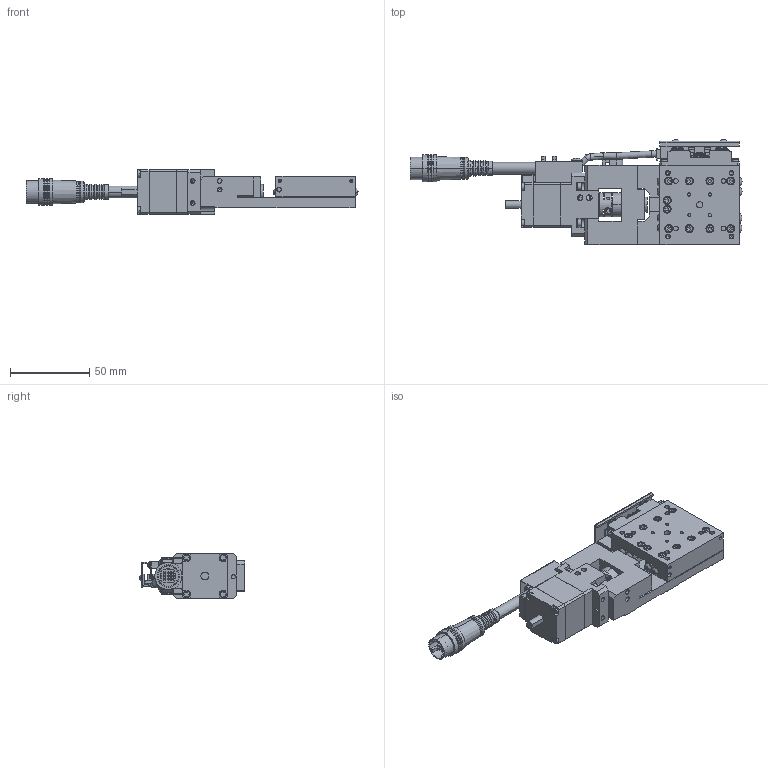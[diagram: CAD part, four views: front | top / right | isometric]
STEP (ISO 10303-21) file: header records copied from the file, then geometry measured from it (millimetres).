
FILE_DESCRIPTION (( 'STEP AP203' ), '1' );
FILE_NAME ('XA05A-R202-R.STEP', '2019-02-20T07:48:12', ( '' ), ( '' ), 'SwSTEP 2.0', 'SolidWorks 2018', '' );
FILE_SCHEMA (( 'CONFIG_CONTROL_DESIGN' ));
Length unit declared in the file: millimetre
Products named in the file (6): base-Part-3; base-Part-2; table; base; XA05A-R202-R; base-Part-1
Assembly tree (5 placements, depth 3):
  XA05A-R202-R
    base
      base-Part-1
      base-Part-2
      base-Part-3
    table
Bounding box: 209.18 x 66.18 x 28 mm (x, y, z)
Volume: 121642.6 mm3; surface area: 54978.6 mm2
Topology: 4 solids, 5 shells, 2192 faces, 5433 edges, 3323 vertices
Faces by surface type: plane 1306, cylinder 522, cone 224, torus 106, sphere 34
Entity records: 65441 total; most frequent: CARTESIAN_POINT 11798, DIRECTION 11595, ORIENTED_EDGE 10686, EDGE_CURVE 5343, AXIS2_PLACEMENT_3D 4160, VERTEX_POINT 3317, VECTOR 3275, LINE 3275
